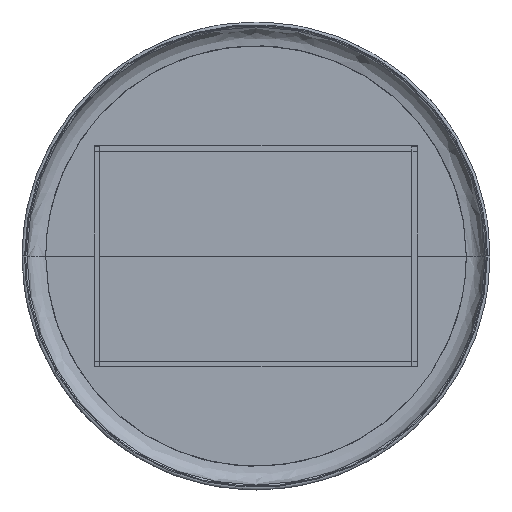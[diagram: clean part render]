
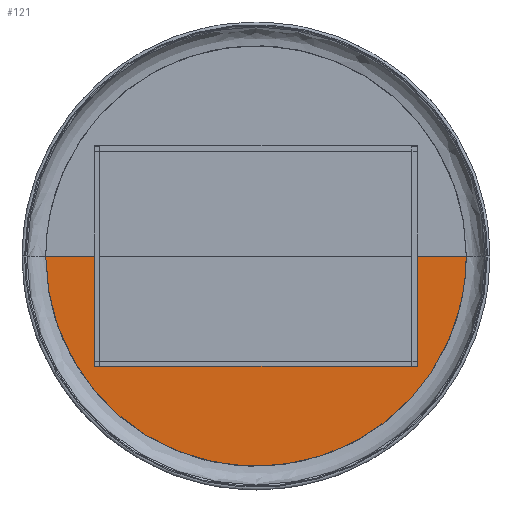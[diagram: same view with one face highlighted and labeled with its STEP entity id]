
A CAD part, top view. The second image highlights one B-rep face of the part: STEP entity #121.
In plain terms, the highlighted planar face has unit normal (0, 0, -1).
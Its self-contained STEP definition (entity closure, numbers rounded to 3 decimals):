
#121=ADVANCED_FACE('',(#176),#841,.T.);
#176=FACE_OUTER_BOUND('',#231,.T.);
#231=EDGE_LOOP('',(#371,#372,#373,#374,#375,#376));
#371=ORIENTED_EDGE('',*,*,#534,.F.);
#372=ORIENTED_EDGE('',*,*,#579,.T.);
#373=ORIENTED_EDGE('',*,*,#580,.T.);
#374=ORIENTED_EDGE('',*,*,#581,.T.);
#375=ORIENTED_EDGE('',*,*,#582,.T.);
#376=ORIENTED_EDGE('',*,*,#583,.T.);
#534=EDGE_CURVE('',#769,#770,#665,.T.);
#579=EDGE_CURVE('',#769,#795,#685,.T.);
#580=EDGE_CURVE('',#795,#796,#686,.T.);
#581=EDGE_CURVE('',#796,#797,#687,.T.);
#582=EDGE_CURVE('',#797,#798,#688,.T.);
#583=EDGE_CURVE('',#798,#770,#689,.T.);
#665=B_SPLINE_CURVE_WITH_KNOTS('',3,(#2256,#2257,#2258,#2259,#2260,#2261,
#2262,#2263,#2264,#2265,#2266,#2267,#2268,#2269,#2270,#2271,#2272,#2273,
#2274),.UNSPECIFIED.,.F.,.F.,(4,1,1,1,1,1,1,1,1,1,1,1,1,1,1,1,4),(-1.,-0.938,
-0.875,-0.813,-0.75,-0.688,-0.625,-0.563,-0.5,-0.438,-0.375,-0.313,
-0.25,-0.188,-0.125,-0.063,0.),.UNSPECIFIED.);
#685=B_SPLINE_CURVE_WITH_KNOTS('',1,(#2765,#2766),.UNSPECIFIED.,.F.,.F.,
(2,2),(-0.244,0.),.UNSPECIFIED.);
#686=B_SPLINE_CURVE_WITH_KNOTS('',1,(#2767,#2768),.UNSPECIFIED.,.F.,.F.,
(2,2),(-0.55,0.),.UNSPECIFIED.);
#687=B_SPLINE_CURVE_WITH_KNOTS('',1,(#2769,#2770),.UNSPECIFIED.,.F.,.F.,
(2,2),(-1.608,0.),.UNSPECIFIED.);
#688=B_SPLINE_CURVE_WITH_KNOTS('',1,(#2771,#2772),.UNSPECIFIED.,.F.,.F.,
(2,2),(-0.55,0.),.UNSPECIFIED.);
#689=B_SPLINE_CURVE_WITH_KNOTS('',1,(#2773,#2774),.UNSPECIFIED.,.F.,.F.,
(2,2),(-0.245,0.),.UNSPECIFIED.);
#769=VERTEX_POINT('',#2179);
#770=VERTEX_POINT('',#2180);
#795=VERTEX_POINT('',#2205);
#796=VERTEX_POINT('',#2206);
#797=VERTEX_POINT('',#2207);
#798=VERTEX_POINT('',#2208);
#841=PLANE('',#972);
#972=AXIS2_PLACEMENT_3D('',#2148,#1046,$);
#1046=DIRECTION('',(0.,0.,-1.));
#2148=CARTESIAN_POINT('',(319.55,-321.582,409.932));
#2179=CARTESIAN_POINT('',(-319.512,0.,409.932));
#2180=CARTESIAN_POINT('',(319.512,0.,409.932));
#2205=CARTESIAN_POINT('',(-245.012,0.,409.932));
#2206=CARTESIAN_POINT('',(-245.012,-167.576,409.932));
#2207=CARTESIAN_POINT('',(244.988,-167.576,409.932));
#2208=CARTESIAN_POINT('',(244.988,0.,409.932));
#2256=CARTESIAN_POINT('',(-319.512,0.,409.932));
#2257=CARTESIAN_POINT('',(-319.54,-20.917,409.932));
#2258=CARTESIAN_POINT('',(-315.38,-62.733,409.932));
#2259=CARTESIAN_POINT('',(-297.097,-123.061,409.932));
#2260=CARTESIAN_POINT('',(-267.377,-178.656,409.932));
#2261=CARTESIAN_POINT('',(-227.386,-227.386,409.932));
#2262=CARTESIAN_POINT('',(-178.656,-267.377,409.932));
#2263=CARTESIAN_POINT('',(-123.06,-297.094,409.932));
#2264=CARTESIAN_POINT('',(-62.736,-315.393,409.932));
#2265=CARTESIAN_POINT('',(0.,-321.572,409.932));
#2266=CARTESIAN_POINT('',(62.736,-315.393,409.932));
#2267=CARTESIAN_POINT('',(123.06,-297.094,409.932));
#2268=CARTESIAN_POINT('',(178.656,-267.377,409.932));
#2269=CARTESIAN_POINT('',(227.386,-227.386,409.932));
#2270=CARTESIAN_POINT('',(267.377,-178.656,409.932));
#2271=CARTESIAN_POINT('',(297.097,-123.061,409.932));
#2272=CARTESIAN_POINT('',(315.38,-62.733,409.932));
#2273=CARTESIAN_POINT('',(319.54,-20.917,409.932));
#2274=CARTESIAN_POINT('',(319.512,0.,409.932));
#2765=CARTESIAN_POINT('',(-319.512,0.,409.932));
#2766=CARTESIAN_POINT('',(-245.012,0.,409.932));
#2767=CARTESIAN_POINT('',(-245.012,0.,409.932));
#2768=CARTESIAN_POINT('',(-245.012,-167.576,409.932));
#2769=CARTESIAN_POINT('',(-245.012,-167.576,409.932));
#2770=CARTESIAN_POINT('',(244.988,-167.576,409.932));
#2771=CARTESIAN_POINT('',(244.988,-167.576,409.932));
#2772=CARTESIAN_POINT('',(244.988,0.,409.932));
#2773=CARTESIAN_POINT('',(244.988,0.,409.932));
#2774=CARTESIAN_POINT('',(319.512,0.,409.932));
